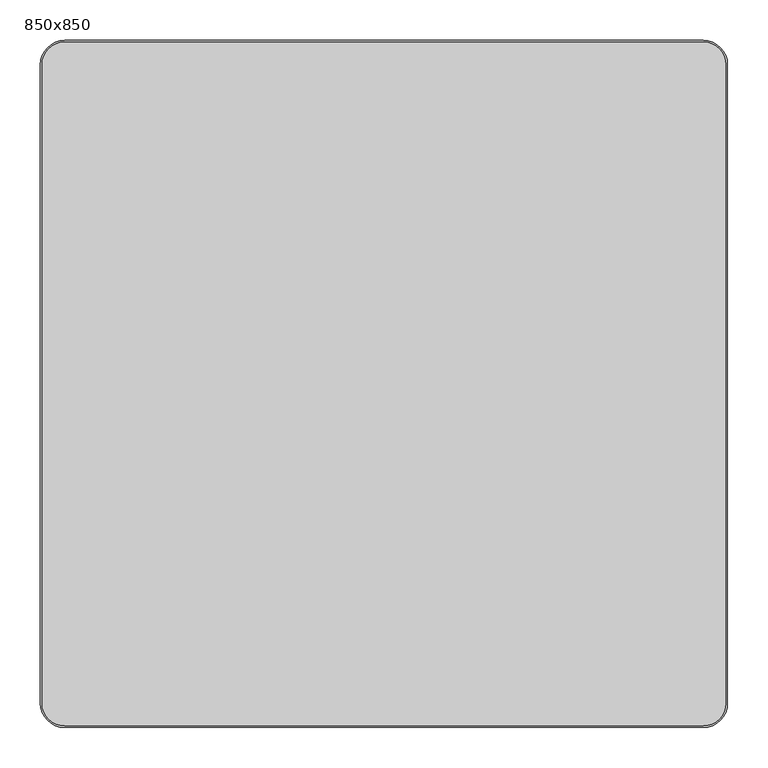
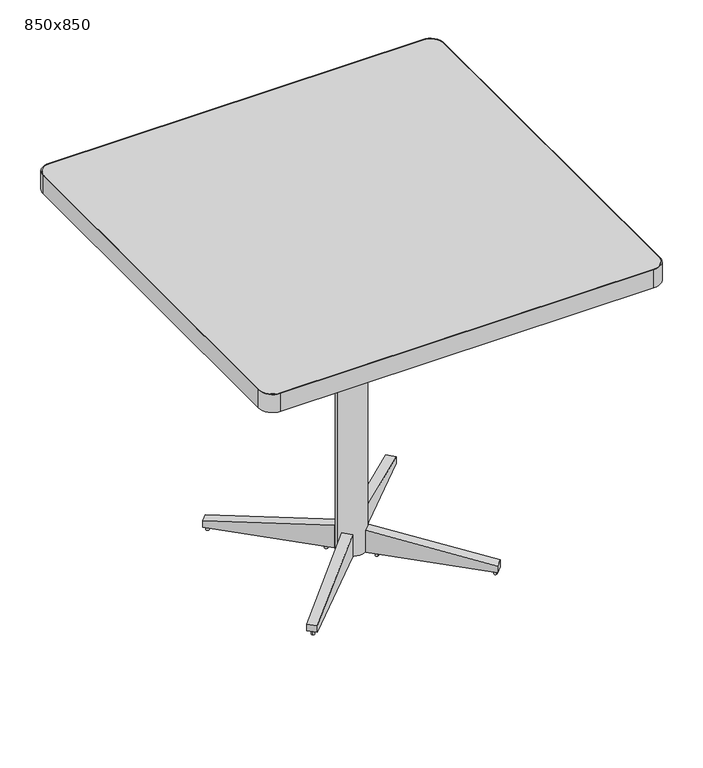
"""IFC4 building model written with IfcOpenShell, lengths in millimetres: furniture geometry, TN.RES.Table01 : 850x850."""

from ifc_helpers import new_model, si_unit, point, frame, frame_2d, origin, origin_with_axes, place, context, project, spatial, polyline, circle_curve, trimmed, segment, composite_curve, outline, extrude, source, transform, mapped, element, save
from ifc_brep_helpers import plane_surface, cylinder_surface, advanced_brep


def furniture_850x850_ff059a4b(model_context):
    return source(origin(), model_context, "Body", "SolidModel", [
        extrude(outline(composite_curve([segment(trimmed(circle_curve(frame_2d((-193.2225314, 193.2225314)), 2.9948705), [point((-195.3402246, 195.3402246))], [point((-191.1048382, 191.1048382))], False, "CARTESIAN"), True, "CONTINUOUS"), segment(trimmed(circle_curve(frame_2d((-193.2225314, 193.2225314)), 2.9948705), [point((-191.1048382, 191.1048382))], [point((-195.3402246, 195.3402246))], False, "CARTESIAN"), True, "CONTINUOUS")], self_intersect=False)), origin_with_axes(), (0.0, 0.0, 1.0), 10.0),
        extrude(outline(composite_curve([segment(trimmed(circle_curve(frame_2d((-34.1235056, 34.1235056)), 2.9948705), [point((-36.2411988, 36.2411988))], [point((-32.0058124, 32.0058124))], False, "CARTESIAN"), True, "CONTINUOUS"), segment(trimmed(circle_curve(frame_2d((-34.1235056, 34.1235056)), 2.9948705), [point((-32.0058124, 32.0058124))], [point((-36.2411988, 36.2411988))], False, "CARTESIAN"), True, "CONTINUOUS")], self_intersect=False)), origin_with_axes(), (0.0, 0.0, 1.0), 10.0),
        extrude(outline(polyline([(0.0, 0.0), (252.4381112, 0.0), (254.5178289, -14.8551262), (6.9323922, -49.5170873), (0.0, 0.0)])), frame((-28.2842712, 14.1421356, 60.0), z_axis=(0.7071067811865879, 0.7071067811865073, 0.0), x_axis=(-0.700277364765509, 0.7002773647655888, -0.13864784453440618)), (0.0, 0.0, 1.0), 20.0),
        extrude(outline(composite_curve([segment(trimmed(circle_curve(frame_2d((193.2225314, 193.2225314)), 2.9948705), [point((191.1048382, 191.1048382))], [point((195.3402246, 195.3402246))], False, "CARTESIAN"), True, "CONTINUOUS"), segment(trimmed(circle_curve(frame_2d((193.2225314, 193.2225314)), 2.9948705), [point((195.3402246, 195.3402246))], [point((191.1048382, 191.1048382))], False, "CARTESIAN"), True, "CONTINUOUS")], self_intersect=False)), origin_with_axes(), (0.0, 0.0, 1.0), 10.0),
        extrude(outline(composite_curve([segment(trimmed(circle_curve(frame_2d((34.1235056, 34.1235056)), 2.9948705), [point((32.0058124, 32.0058124))], [point((36.2411988, 36.2411988))], False, "CARTESIAN"), True, "CONTINUOUS"), segment(trimmed(circle_curve(frame_2d((34.1235056, 34.1235056)), 2.9948705), [point((36.2411988, 36.2411988))], [point((32.0058124, 32.0058124))], False, "CARTESIAN"), True, "CONTINUOUS")], self_intersect=False)), origin_with_axes(), (0.0, 0.0, 1.0), 10.0),
        extrude(outline(polyline([(-60.0, 0.0), (-10.0, 0.0), (-10.0, -250.0), (-25.0, -250.0), (-60.0, 0.0)])), frame((28.2842712, 14.1421356, 0.0), z_axis=(-0.7071067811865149, 0.7071067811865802, 0.0), x_axis=(0.0, 0.0, -1.0)), (0.0, 0.0, 1.0), 20.0),
        extrude(outline(composite_curve([segment(trimmed(circle_curve(frame_2d((-193.2225314, -193.2225314)), 2.9948705), [point((-195.3402246, -195.3402246))], [point((-191.1048382, -191.1048382))], False, "CARTESIAN"), True, "CONTINUOUS"), segment(trimmed(circle_curve(frame_2d((-193.2225314, -193.2225314)), 2.9948705), [point((-191.1048382, -191.1048382))], [point((-195.3402246, -195.3402246))], False, "CARTESIAN"), True, "CONTINUOUS")], self_intersect=False)), origin_with_axes(), (0.0, 0.0, 1.0), 10.0),
        extrude(outline(composite_curve([segment(trimmed(circle_curve(frame_2d((-34.1235056, -34.1235056)), 2.9948705), [point((-36.2411988, -36.2411988))], [point((-32.0058124, -32.0058124))], False, "CARTESIAN"), True, "CONTINUOUS"), segment(trimmed(circle_curve(frame_2d((-34.1235056, -34.1235056)), 2.9948705), [point((-32.0058124, -32.0058124))], [point((-36.2411988, -36.2411988))], False, "CARTESIAN"), True, "CONTINUOUS")], self_intersect=False)), origin_with_axes(), (0.0, 0.0, 1.0), 10.0),
        extrude(outline(polyline([(0.0, 0.0), (252.4381112, 0.0), (254.5178289, -14.8551262), (6.9323922, -49.5170873), (0.0, 0.0)])), frame((-14.1421356, -28.2842712, 60.0), z_axis=(-0.7071067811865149, 0.7071067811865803, 0.0), x_axis=(-0.7002773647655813, -0.7002773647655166, -0.1386478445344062)), (0.0, 0.0, 1.0), 20.0),
        extrude(outline(composite_curve([segment(trimmed(circle_curve(frame_2d((193.2225314, -193.2225314)), 2.9948705), [point((195.3402246, -195.3402246))], [point((191.1048382, -191.1048382))], False, "CARTESIAN"), True, "CONTINUOUS"), segment(trimmed(circle_curve(frame_2d((193.2225314, -193.2225314)), 2.9948705), [point((191.1048382, -191.1048382))], [point((195.3402246, -195.3402246))], False, "CARTESIAN"), True, "CONTINUOUS")], self_intersect=False)), origin_with_axes(), (0.0, 0.0, 1.0), 10.0),
        extrude(outline(composite_curve([segment(trimmed(circle_curve(frame_2d((34.1235056, -34.1235056)), 2.9948705), [point((36.2411988, -36.2411988))], [point((32.0058124, -32.0058124))], False, "CARTESIAN"), True, "CONTINUOUS"), segment(trimmed(circle_curve(frame_2d((34.1235056, -34.1235056)), 2.9948705), [point((32.0058124, -32.0058124))], [point((36.2411988, -36.2411988))], False, "CARTESIAN"), True, "CONTINUOUS")], self_intersect=False)), origin_with_axes(), (0.0, 0.0, 1.0), 10.0),
        extrude(outline(polyline([(0.0, 0.0), (-6.9323922, -49.5170873), (-254.5178289, -14.8551262), (-252.4381112, 0.0), (0.0, 0.0)])), frame((14.1421356, -28.2842712, 60.0), z_axis=(0.7071067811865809, 0.7071067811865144, 0.0), x_axis=(-0.700277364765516, 0.7002773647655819, 0.1386478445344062)), (0.0, 0.0, 1.0), 20.0),
        extrude(outline(composite_curve([segment(trimmed(circle_curve(frame_2d((-395.0, 395.0)), 28.0), [point((-423.0, 395.0))], [point((-395.0, 423.0))], False, "CARTESIAN"), True, "CONTINUOUS"), segment(polyline([(-395.0, 423.0), (395.0, 423.0)]), True, "CONTINUOUS"), segment(trimmed(circle_curve(frame_2d((395.0, 395.0)), 28.0), [point((395.0, 423.0))], [point((423.0, 395.0))], False, "CARTESIAN"), True, "CONTINUOUS"), segment(polyline([(423.0, 395.0), (423.0, -395.0)]), True, "CONTINUOUS"), segment(trimmed(circle_curve(frame_2d((395.0, -395.0)), 28.0), [point((423.0, -395.0))], [point((395.0, -423.0))], False, "CARTESIAN"), True, "CONTINUOUS"), segment(polyline([(395.0, -423.0), (-395.0, -423.0)]), True, "CONTINUOUS"), segment(trimmed(circle_curve(frame_2d((-395.0, -395.0)), 28.0), [point((-395.0, -423.0))], [point((-423.0, -395.0))], False, "CARTESIAN"), True, "CONTINUOUS"), segment(polyline([(-423.0, -395.0), (-423.0, 395.0)]), True, "CONTINUOUS")], self_intersect=False)), frame((0.0, 0.0, 710.0), z_axis=(0.0, 0.0, 1.0), x_axis=(1.0, 0.0, 0.0)), (0.0, 0.0, 1.0), 40.0),
        extrude(outline(composite_curve([segment(polyline([(-425.0, -395.0), (-425.0, 395.0)]), True, "CONTINUOUS"), segment(trimmed(circle_curve(frame_2d((-395.0, 395.0)), 30.0), [point((-425.0, 395.0))], [point((-395.0, 425.0))], False, "CARTESIAN"), True, "CONTINUOUS"), segment(polyline([(-395.0, 425.0), (395.0, 425.0)]), True, "CONTINUOUS"), segment(trimmed(circle_curve(frame_2d((395.0, 395.0)), 30.0), [point((395.0, 425.0))], [point((425.0, 395.0))], False, "CARTESIAN"), True, "CONTINUOUS"), segment(polyline([(425.0, 395.0), (425.0, -395.0)]), True, "CONTINUOUS"), segment(trimmed(circle_curve(frame_2d((395.0, -395.0)), 30.0), [point((425.0, -395.0))], [point((395.0, -425.0))], False, "CARTESIAN"), True, "CONTINUOUS"), segment(polyline([(395.0, -425.0), (-395.0, -425.0)]), True, "CONTINUOUS"), segment(trimmed(circle_curve(frame_2d((-395.0, -395.0)), 30.0), [point((-395.0, -425.0))], [point((-425.0, -395.0))], False, "CARTESIAN"), True, "CONTINUOUS")], self_intersect=False), holes=[composite_curve([segment(polyline([(395.0, 423.0), (-395.0, 423.0)]), True, "CONTINUOUS"), segment(trimmed(circle_curve(frame_2d((-395.0, 395.0)), 28.0), [point((-395.0, 423.0))], [point((-423.0, 395.0))], True, "CARTESIAN"), True, "CONTINUOUS"), segment(polyline([(-423.0, 395.0), (-423.0, -395.0)]), True, "CONTINUOUS"), segment(trimmed(circle_curve(frame_2d((-395.0, -395.0)), 28.0), [point((-423.0, -395.0))], [point((-395.0, -423.0))], True, "CARTESIAN"), True, "CONTINUOUS"), segment(polyline([(-395.0, -423.0), (395.0, -423.0)]), True, "CONTINUOUS"), segment(trimmed(circle_curve(frame_2d((395.0, -395.0)), 28.0), [point((395.0, -423.0))], [point((423.0, -395.0))], True, "CARTESIAN"), True, "CONTINUOUS"), segment(polyline([(423.0, -395.0), (423.0, 395.0)]), True, "CONTINUOUS"), segment(trimmed(circle_curve(frame_2d((395.0, 395.0)), 28.0), [point((423.0, 395.0))], [point((395.0, 423.0))], True, "CARTESIAN"), True, "CONTINUOUS")], self_intersect=False)]), frame((0.0, 0.0, 710.0), z_axis=(0.0, 0.0, 1.0), x_axis=(1.0, 0.0, 0.0)), (0.0, 0.0, 1.0), 40.0),
        advanced_brep(
        [(30.0, 0.0, 10.0), (-30.0, 0.0, 10.0), (-30.0, 0.0, 705.0), (30.0, 0.0, 705.0), (0.0, 0.0, 10.0), (175.0, 0.0, 710.0), (-175.0, 0.0, 710.0), (0.0, 0.0, 710.0), (175.0, 0.0, 705.0), (-175.0, 0.0, 705.0)],
        [
            (0, 1, circle_curve(frame((0.0, 0.0, 10.0), z_axis=(0.0, 0.0, 1.0), x_axis=(-1.0, 0.0, 0.0)), 30.0)),
            (1, 2),
            (2, 3, circle_curve(frame((0.0, 0.0, 705.0), z_axis=(0.0, 0.0, -1.0), x_axis=(-1.0, 0.0, 0.0)), 30.0)),
            (3, 0),
            (1, 0, circle_curve(frame((0.0, 0.0, 10.0), z_axis=(0.0, 0.0, 1.0), x_axis=(-1.0, 0.0, 0.0)), 30.0)),
            (3, 2, circle_curve(frame((0.0, 0.0, 705.0), z_axis=(0.0, 0.0, -1.0), x_axis=(-1.0, 0.0, 0.0)), 30.0)),
            (4, 1),
            (0, 4),
            (5, 6, circle_curve(frame((0.0, 0.0, 710.0), z_axis=(0.0, 0.0, 1.0), x_axis=(-1.0, 0.0, 0.0)), 175.0)),
            (6, 7),
            (7, 5),
            (6, 5, circle_curve(frame((0.0, 0.0, 710.0), z_axis=(0.0, 0.0, 1.0), x_axis=(-1.0, 0.0, 0.0)), 175.0)),
            (8, 9, circle_curve(frame((0.0, 0.0, 705.0), z_axis=(0.0, 0.0, 1.0), x_axis=(-1.0, 0.0, 0.0)), 175.0)),
            (9, 6),
            (5, 8),
            (9, 8, circle_curve(frame((0.0, 0.0, 705.0), z_axis=(0.0, 0.0, 1.0), x_axis=(-1.0, 0.0, 0.0)), 175.0)),
            (2, 9),
            (8, 3),
        ],
        [
            cylinder_surface(frame((0.0, 0.0, 740.0), z_axis=(0.0, 0.0, -1.0), x_axis=(-1.0, 0.0, 0.0)), 30.0),
            plane_surface(frame((0.0, 0.0, 10.0), z_axis=(0.0, 0.0, -1.0), x_axis=(-1.0, 0.0, 0.0))),
            plane_surface(frame((0.0, 0.0, 710.0), z_axis=(0.0, 0.0, 1.0), x_axis=(-1.0, 0.0, 0.0))),
            cylinder_surface(frame((0.0, 0.0, 740.0), z_axis=(0.0, 0.0, -1.0), x_axis=(-1.0, 0.0, 0.0)), 175.0),
            plane_surface(frame((0.0, 0.0, 705.0), z_axis=(0.0, 0.0, -1.0), x_axis=(-1.0, 0.0, 0.0))),
        ],
        [
            (0, [[1, 2, 3, 4]]),
            (0, [[5, -4, 6, -2]]),
            (1, [[7, -1, 8]]),
            (1, [[-8, -5, -7]]),
            (2, [[9, 10, 11]]),
            (2, [[12, -11, -10]]),
            (3, [[13, 14, -9, 15]]),
            (3, [[16, -15, -12, -14]]),
            (4, [[-3, 17, -13, 18]]),
            (4, [[-6, -18, -16, -17]]),
        ],
    ),
    ])


if __name__ == "__main__":
    model = new_model("IFC4")
    model_context = context("Model", 3, world=origin())
    ifc_project = project(units=[si_unit("LENGTHUNIT", "METRE", prefix="MILLI")], contexts=[model_context])
    site = spatial("IfcSite", under=ifc_project)
    building = spatial("IfcBuilding", under=site)
    placement = place(None, origin())
    furniture_850x850_shape = furniture_850x850_ff059a4b(model_context)
    element("IfcFurniture", 1, ObjectType="TN.RES.Table01 : 850x850", at=placement, inside=building, context=model_context, shape_type="MappedRepresentation", body=[
        mapped(furniture_850x850_shape, transform((0.0, 0.0, 0.0), x_axis=(1.0, 0.0, 0.0), y_axis=(0.0, 1.0, 0.0), z_axis=(0.0, 0.0, 1.0))),
    ])
    save(model, "model.ifc")
